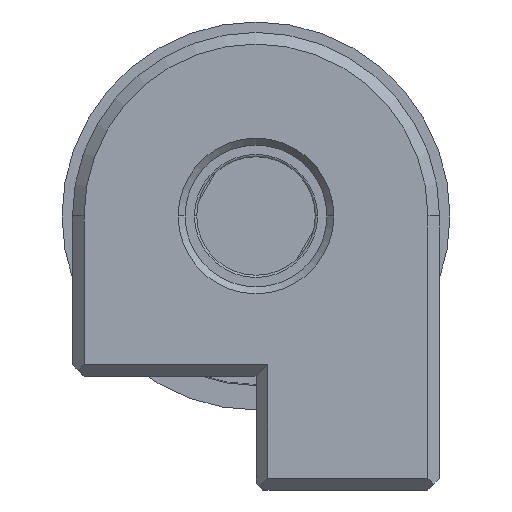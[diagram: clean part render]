
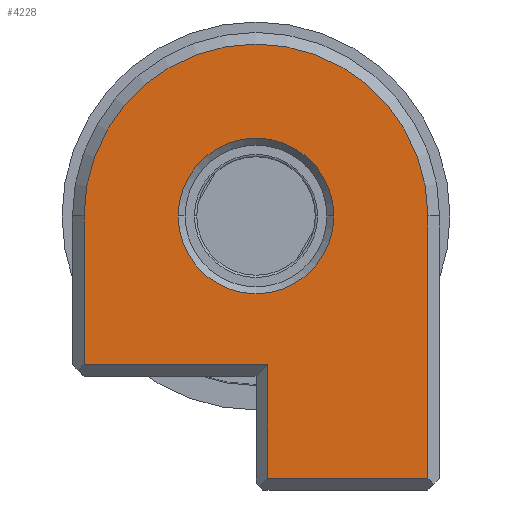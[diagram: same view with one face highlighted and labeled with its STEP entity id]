
A CAD part, front view. The second image highlights one B-rep face of the part: STEP entity #4228.
In plain terms, the highlighted planar face has unit normal (0, -1, 0).
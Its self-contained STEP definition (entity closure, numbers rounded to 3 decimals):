
#15=CARTESIAN_POINT('',(0.,0.,18.8));
#16=DIRECTION('',(0.,1.,0.));
#17=DIRECTION('',(1.,0.,0.));
#18=AXIS2_PLACEMENT_3D('',#15,#16,#17);
#24=CARTESIAN_POINT('',(0.,0.,18.8));
#25=DIRECTION('',(0.,1.,0.));
#26=DIRECTION('',(-1.,0.,0.));
#27=AXIS2_PLACEMENT_3D('',#24,#25,#26);
#32=DIRECTION('',(0.,0.,-1.));
#33=VECTOR('',#32,4.9);
#34=CARTESIAN_POINT('',(0.5,0.,12.405));
#35=LINE('',#34,#33);
#39=DIRECTION('',(-1.,0.,0.));
#40=VECTOR('',#39,7.9);
#41=CARTESIAN_POINT('',(0.5,0.,12.405));
#42=LINE('',#41,#40);
#46=DIRECTION('',(0.,0.,-1.));
#47=VECTOR('',#46,6.395);
#48=CARTESIAN_POINT('',(-7.4,0.,
18.8));
#49=LINE('',#48,#47);
#53=CARTESIAN_POINT('',(0.,0.,18.8));
#54=DIRECTION('',(0.,-1.,0.));
#55=DIRECTION('',(1.,0.,0.));
#56=AXIS2_PLACEMENT_3D('',#53,#54,#55);
#61=DIRECTION('',(0.,0.,1.));
#62=VECTOR('',#61,11.295);
#63=CARTESIAN_POINT('',(7.4,0.,7.505));
#64=LINE('',#63,#62);
#68=DIRECTION('',(-1.,0.,0.));
#69=VECTOR('',#68,6.9);
#70=CARTESIAN_POINT('',(7.4,0.,7.505));
#71=LINE('',#70,#69);
#4025=CARTESIAN_POINT('',(3.35,0.,18.8));
#4026=CARTESIAN_POINT('',(-3.35,0.,18.8));
#4027=VERTEX_POINT('',#4025);
#4028=VERTEX_POINT('',#4026);
#4045=CARTESIAN_POINT('',(7.4,0.,18.8));
#4046=CARTESIAN_POINT('',(-7.4,0.,18.8));
#4047=VERTEX_POINT('',#4045);
#4048=VERTEX_POINT('',#4046);
#4127=CARTESIAN_POINT('',(0.5,0.,12.405));
#4128=CARTESIAN_POINT('',(0.5,0.,7.505));
#4129=VERTEX_POINT('',#4127);
#4130=VERTEX_POINT('',#4128);
#4132=CARTESIAN_POINT('',(-7.4,0.,12.405));
#4134=VERTEX_POINT('',#4132);
#4173=CARTESIAN_POINT('',(7.4,0.,7.505));
#4174=VERTEX_POINT('',#4173);
#4203=CARTESIAN_POINT('',(0.,0.,0.));
#4204=DIRECTION('',(0.,1.,0.));
#4205=DIRECTION('',(1.,0.,0.));
#4206=AXIS2_PLACEMENT_3D('',#4203,#4204,#4205);
#4207=PLANE('',#4206);
#4209=ORIENTED_EDGE('',*,*,#4208,.F.);
#4211=ORIENTED_EDGE('',*,*,#4210,.T.);
#4213=ORIENTED_EDGE('',*,*,#4212,.F.);
#4215=ORIENTED_EDGE('',*,*,#4214,.F.);
#4217=ORIENTED_EDGE('',*,*,#4216,.F.);
#4219=ORIENTED_EDGE('',*,*,#4218,.T.);
#4220=EDGE_LOOP('',(#4209,#4211,#4213,#4215,#4217,#4219));
#4221=FACE_OUTER_BOUND('',#4220,.F.);
#4223=ORIENTED_EDGE('',*,*,#4222,.F.);
#4225=ORIENTED_EDGE('',*,*,#4224,.F.);
#4226=EDGE_LOOP('',(#4223,#4225));
#4227=FACE_BOUND('',#4226,.F.);
#4228=ADVANCED_FACE('',(#4221,#4227),#4207,.F.);
#19=CIRCLE('',#18,3.35);
#28=CIRCLE('',#27,3.35);
#57=CIRCLE('',#56,7.4);
#4208=EDGE_CURVE('',#4129,#4130,#35,.T.);
#4210=EDGE_CURVE('',#4129,#4134,#42,.T.);
#4212=EDGE_CURVE('',#4048,#4134,#49,.T.);
#4214=EDGE_CURVE('',#4047,#4048,#57,.T.);
#4216=EDGE_CURVE('',#4174,#4047,#64,.T.);
#4218=EDGE_CURVE('',#4174,#4130,#71,.T.);
#4222=EDGE_CURVE('',#4027,#4028,#19,.T.);
#4224=EDGE_CURVE('',#4028,#4027,#28,.T.);
